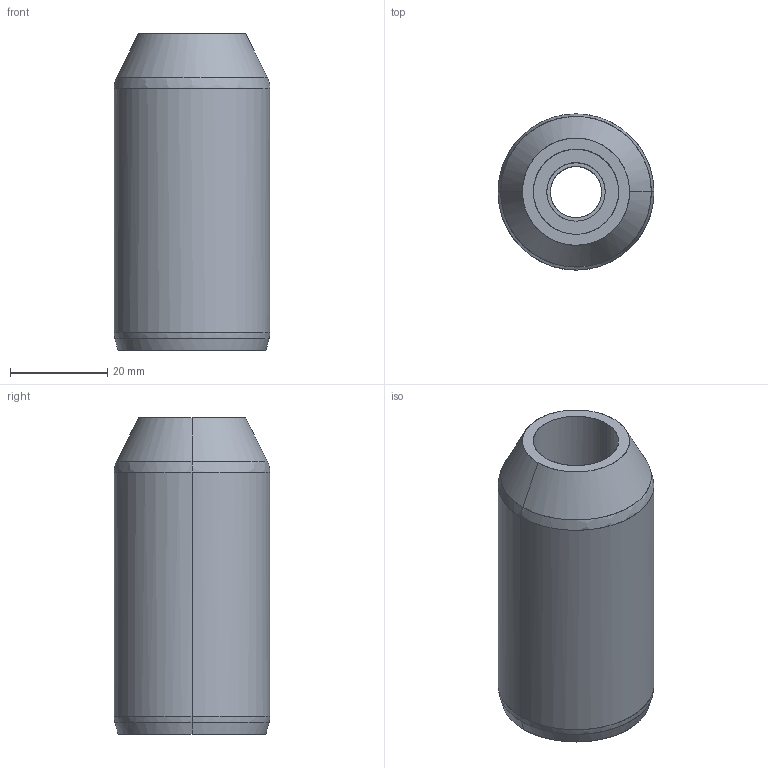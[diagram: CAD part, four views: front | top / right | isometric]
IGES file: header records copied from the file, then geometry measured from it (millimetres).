
Global section: file name: E:\UnigraphicsGraphicData\MISUMI_PRESS-PARTS\IGES\3d_tlpb32_07126_r00.igs; native system: NX V5.0; preprocessor: UGS NX IGES V5.0; author: MISUMI; date: 20110105.163431; units: millimetre
Bounding box: 32 x 32 x 65 mm (x, y, z)
Surface area: 10174 mm2 (no closed solid volume)
Topology: 0 solids, 0 shells, 20 faces, 136 edges, 136 vertices
Faces by surface type: bspline 20
